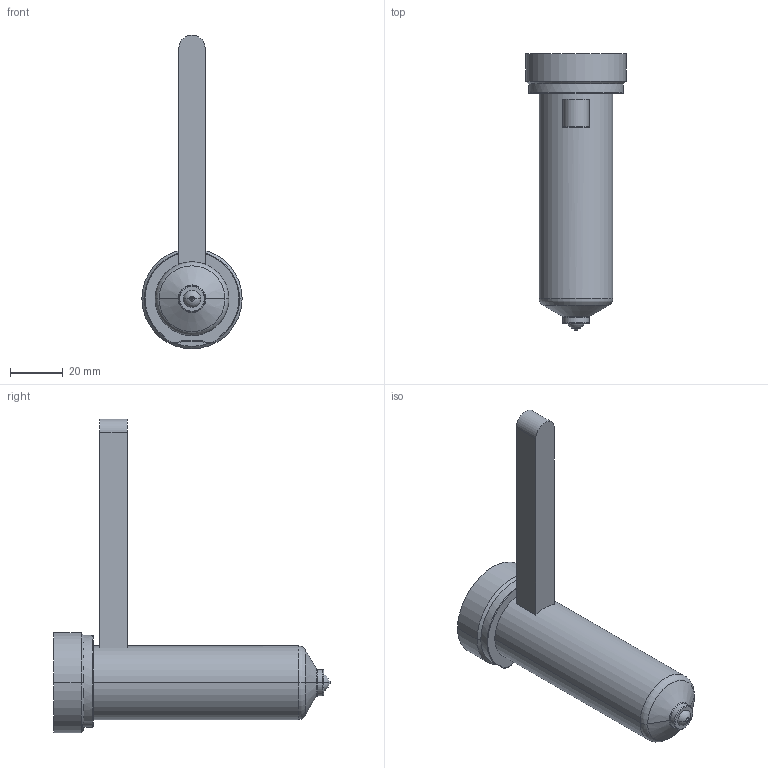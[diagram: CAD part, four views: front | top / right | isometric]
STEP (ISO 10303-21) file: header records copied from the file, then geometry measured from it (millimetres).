
FILE_DESCRIPTION((''),'2;1');
FILE_NAME('EO06_PG-BL_WR_090_COT','2024-02-19T11:03:35',('sundharh'),(''),'CREO PARAMETRIC BY PTC INC, 2023154','CREO PARAMETRIC BY PTC INC, 2023154','');
FILE_SCHEMA(('CONFIG_CONTROL_DESIGN'));
Length unit declared in the file: millimetre
Products named in the file (1): EO06_PG-BL_WR_090_COT
Bounding box: 38 x 105 x 119 mm (x, y, z)
Volume: 76258.4 mm3; surface area: 14589 mm2
Topology: 1 solids, 1 shells, 40 faces, 85 edges, 50 vertices
Faces by surface type: cylinder 13, plane 10, torus 9, cone 6, sphere 2
Entity records: 1197 total; most frequent: CARTESIAN_POINT 267, DIRECTION 209, ORIENTED_EDGE 170, AXIS2_PLACEMENT_3D 90, EDGE_CURVE 85, VERTEX_POINT 50, CIRCLE 50, EDGE_LOOP 43
